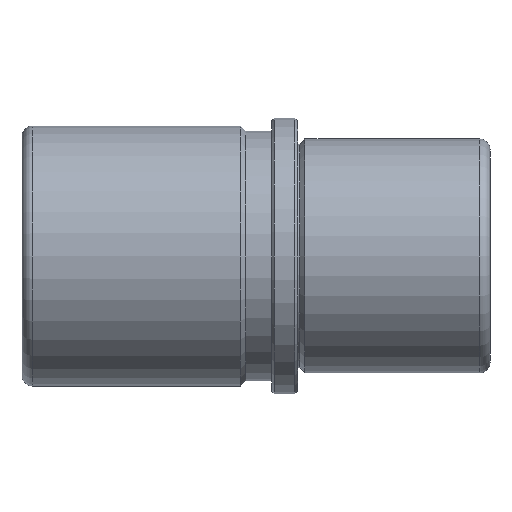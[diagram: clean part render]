
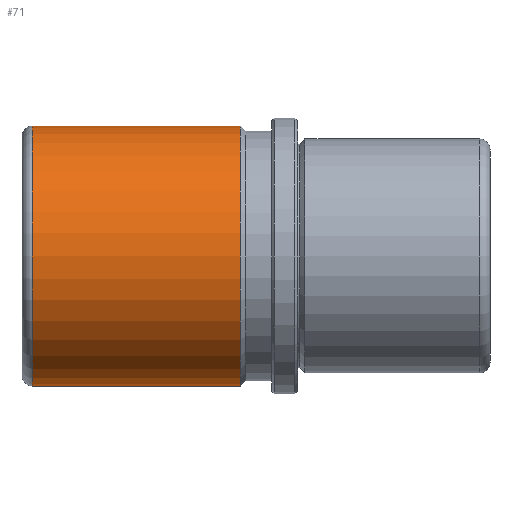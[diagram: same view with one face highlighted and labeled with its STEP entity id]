
A CAD part, front view. The second image highlights one B-rep face of the part: STEP entity #71.
In plain terms, the highlighted cylindrical face has radius 25 mm (diameter 50 mm), a full revolution.
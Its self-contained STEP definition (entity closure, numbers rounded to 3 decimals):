
#71 = ADVANCED_FACE( '', ( #157, #158, #159 ), #160, .T. );
#157 = FACE_OUTER_BOUND( '', #250, .T. );
#158 = FACE_BOUND( '', #251, .T. );
#159 = FACE_OUTER_BOUND( '', #252, .T. );
#160 = CYLINDRICAL_SURFACE( '', #253, 25. );
#250 = EDGE_LOOP( '', ( #363 ) );
#251 = EDGE_LOOP( '', ( #364 ) );
#252 = EDGE_LOOP( '', ( #365 ) );
#253 = AXIS2_PLACEMENT_3D( '', #366, #367, #368 );
#363 = ORIENTED_EDGE( '', *, *, #424, .T. );
#364 = ORIENTED_EDGE( '', *, *, #442, .T. );
#365 = ORIENTED_EDGE( '', *, *, #443, .F. );
#366 = CARTESIAN_POINT( '', ( 37., 0., 0. ) );
#367 = DIRECTION( '', ( -1., 0., 0. ) );
#368 = DIRECTION( '', ( 0., 0., -1. ) );
#424 = EDGE_CURVE( '', #475, #475, #476, .T. );
#442 = EDGE_CURVE( '', #502, #502, #503, .T. );
#443 = EDGE_CURVE( '', #504, #504, #505, .T. );
#475 = VERTEX_POINT( '', #605 );
#476 = CIRCLE( '', #606, 25. );
#502 = VERTEX_POINT( '', #632 );
#503 = B_SPLINE_CURVE_WITH_KNOTS( '', 3, ( #633, #634, #635, #636, #637, #638, #639, #640, #641, #642, #643, #644, #645, #646, #647, #648, #649, #650, #651, #652, #653, #654, #655, #656, #657, #658, #659, #660, #661, #662, #663, #664, #665, #666, #667, #668, #669, #670, #671, #672, #673, #674, #675, #676, #677, #678, #679, #680, #681, #682, #683, #684, #685, #686, #687, #688, #689, #690, #691, #692, #693, #694, #695, #696, #697, #698 ), .UNSPECIFIED., .T., .F., ( 2, 2, 2, 2, 2, 2, 2, 2, 2, 2, 2, 2, 2, 2, 2, 2, 2, 2, 2, 2, 2, 2, 2, 2, 2, 2, 2, 2, 2, 2, 2, 2, 2, 2, 2 ), ( -0.001, 0., 0.001, 0.002, 0.002, 0.003, 0.004, 0.005, 0.006, 0.007, 0.007, 0.008, 0.009, 0.01, 0.011, 0.011, 0.012, 0.013, 0.014, 0.015, 0.016, 0.016, 0.017, 0.018, 0.019, 0.02, 0.02, 0.021, 0.022, 0.023, 0.024, 0.025, 0.025, 0.026, 0.027 ), .UNSPECIFIED. );
#504 = VERTEX_POINT( '', #699 );
#505 = CIRCLE( '', #700, 25. );
#605 = CARTESIAN_POINT( '', ( -51., 0., -25. ) );
#606 = AXIS2_PLACEMENT_3D( '', #735, #736, #737 );
#632 = CARTESIAN_POINT( '', ( -18., 24.647, -4.188 ) );
#633 = CARTESIAN_POINT( '', ( -18.277, 24.647, -4.188 ) );
#634 = CARTESIAN_POINT( '', ( -17.723, 24.647, -4.188 ) );
#635 = CARTESIAN_POINT( '', ( -17.45, 24.651, -4.161 ) );
#636 = CARTESIAN_POINT( '', ( -16.914, 24.669, -4.054 ) );
#637 = CARTESIAN_POINT( '', ( -16.648, 24.682, -3.973 ) );
#638 = CARTESIAN_POINT( '', ( -16.141, 24.715, -3.763 ) );
#639 = CARTESIAN_POINT( '', ( -15.901, 24.735, -3.634 ) );
#640 = CARTESIAN_POINT( '', ( -15.446, 24.778, -3.33 ) );
#641 = CARTESIAN_POINT( '', ( -15.231, 24.801, -3.154 ) );
#642 = CARTESIAN_POINT( '', ( -14.846, 24.847, -2.768 ) );
#643 = CARTESIAN_POINT( '', ( -14.672, 24.87, -2.558 ) );
#644 = CARTESIAN_POINT( '', ( -14.366, 24.913, -2.1 ) );
#645 = CARTESIAN_POINT( '', ( -14.236, 24.932, -1.857 ) );
#646 = CARTESIAN_POINT( '', ( -14.027, 24.965, -1.353 ) );
#647 = CARTESIAN_POINT( '', ( -13.947, 24.978, -1.089 ) );
#648 = CARTESIAN_POINT( '', ( -13.839, 24.995, -0.548 ) );
#649 = CARTESIAN_POINT( '', ( -13.812, 25., -0.276 ) );
#650 = CARTESIAN_POINT( '', ( -13.812, 25., 0.271 ) );
#651 = CARTESIAN_POINT( '', ( -13.839, 24.995, 0.549 ) );
#652 = CARTESIAN_POINT( '', ( -13.946, 24.978, 1.087 ) );
#653 = CARTESIAN_POINT( '', ( -14.025, 24.965, 1.348 ) );
#654 = CARTESIAN_POINT( '', ( -14.236, 24.932, 1.856 ) );
#655 = CARTESIAN_POINT( '', ( -14.366, 24.913, 2.1 ) );
#656 = CARTESIAN_POINT( '', ( -14.669, 24.87, 2.553 ) );
#657 = CARTESIAN_POINT( '', ( -14.843, 24.847, 2.765 ) );
#658 = CARTESIAN_POINT( '', ( -15.233, 24.801, 3.156 ) );
#659 = CARTESIAN_POINT( '', ( -15.444, 24.778, 3.328 ) );
#660 = CARTESIAN_POINT( '', ( -15.897, 24.735, 3.632 ) );
#661 = CARTESIAN_POINT( '', ( -16.142, 24.715, 3.763 ) );
#662 = CARTESIAN_POINT( '', ( -16.648, 24.682, 3.973 ) );
#663 = CARTESIAN_POINT( '', ( -16.909, 24.669, 4.053 ) );
#664 = CARTESIAN_POINT( '', ( -17.447, 24.651, 4.16 ) );
#665 = CARTESIAN_POINT( '', ( -17.725, 24.647, 4.188 ) );
#666 = CARTESIAN_POINT( '', ( -18.272, 24.647, 4.188 ) );
#667 = CARTESIAN_POINT( '', ( -18.544, 24.651, 4.162 ) );
#668 = CARTESIAN_POINT( '', ( -19.086, 24.669, 4.054 ) );
#669 = CARTESIAN_POINT( '', ( -19.35, 24.682, 3.974 ) );
#670 = CARTESIAN_POINT( '', ( -19.854, 24.715, 3.765 ) );
#671 = CARTESIAN_POINT( '', ( -20.098, 24.735, 3.635 ) );
#672 = CARTESIAN_POINT( '', ( -20.555, 24.778, 3.33 ) );
#673 = CARTESIAN_POINT( '', ( -20.765, 24.801, 3.157 ) );
#674 = CARTESIAN_POINT( '', ( -21.152, 24.847, 2.771 ) );
#675 = CARTESIAN_POINT( '', ( -21.329, 24.87, 2.556 ) );
#676 = CARTESIAN_POINT( '', ( -21.632, 24.912, 2.102 ) );
#677 = CARTESIAN_POINT( '', ( -21.761, 24.932, 1.862 ) );
#678 = CARTESIAN_POINT( '', ( -21.972, 24.965, 1.355 ) );
#679 = CARTESIAN_POINT( '', ( -22.053, 24.978, 1.089 ) );
#680 = CARTESIAN_POINT( '', ( -22.16, 24.995, 0.554 ) );
#681 = CARTESIAN_POINT( '', ( -22.188, 25., 0.28 ) );
#682 = CARTESIAN_POINT( '', ( -22.188, 25., -0.273 ) );
#683 = CARTESIAN_POINT( '', ( -22.161, 24.995, -0.546 ) );
#684 = CARTESIAN_POINT( '', ( -22.055, 24.978, -1.082 ) );
#685 = CARTESIAN_POINT( '', ( -21.974, 24.965, -1.349 ) );
#686 = CARTESIAN_POINT( '', ( -21.765, 24.932, -1.855 ) );
#687 = CARTESIAN_POINT( '', ( -21.636, 24.913, -2.096 ) );
#688 = CARTESIAN_POINT( '', ( -21.332, 24.871, -2.551 ) );
#689 = CARTESIAN_POINT( '', ( -21.156, 24.847, -2.766 ) );
#690 = CARTESIAN_POINT( '', ( -20.771, 24.801, -3.152 ) );
#691 = CARTESIAN_POINT( '', ( -20.561, 24.778, -3.325 ) );
#692 = CARTESIAN_POINT( '', ( -20.102, 24.735, -3.633 ) );
#693 = CARTESIAN_POINT( '', ( -19.86, 24.716, -3.762 ) );
#694 = CARTESIAN_POINT( '', ( -19.357, 24.683, -3.971 ) );
#695 = CARTESIAN_POINT( '', ( -19.092, 24.669, -4.053 ) );
#696 = CARTESIAN_POINT( '', ( -18.551, 24.651, -4.161 ) );
#697 = CARTESIAN_POINT( '', ( -18.277, 24.647, -4.188 ) );
#698 = CARTESIAN_POINT( '', ( -17.723, 24.647, -4.188 ) );
#699 = CARTESIAN_POINT( '', ( -11., 0., -25. ) );
#700 = AXIS2_PLACEMENT_3D( '', #762, #763, #764 );
#735 = CARTESIAN_POINT( '', ( -51., 0., 0. ) );
#736 = DIRECTION( '', ( 1., 0., 0. ) );
#737 = DIRECTION( '', ( 0., 0., -1. ) );
#762 = CARTESIAN_POINT( '', ( -11., 0., 0. ) );
#763 = DIRECTION( '', ( 1., 0., 0. ) );
#764 = DIRECTION( '', ( 0., 0., -1. ) );
